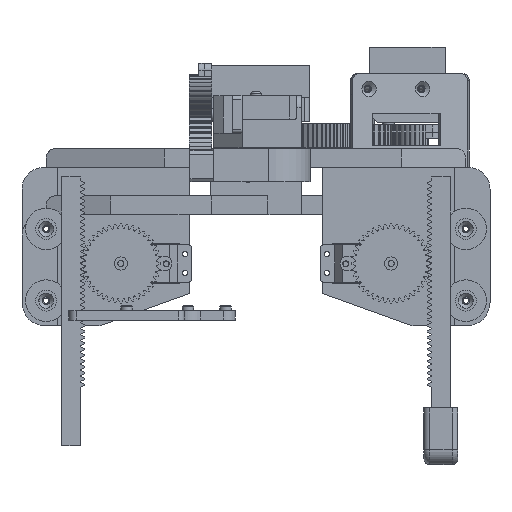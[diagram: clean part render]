
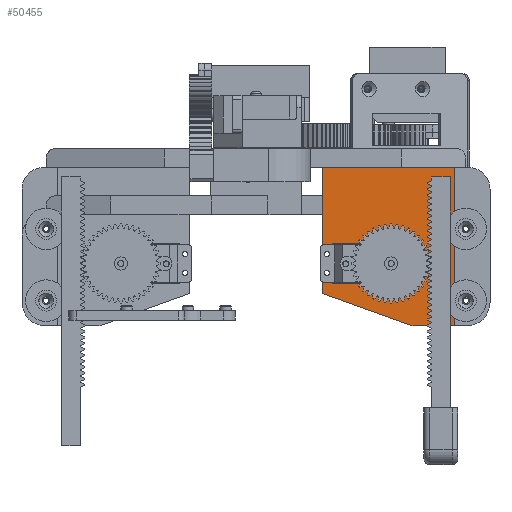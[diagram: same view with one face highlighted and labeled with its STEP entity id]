
A CAD part, front view. The second image highlights one B-rep face of the part: STEP entity #50455.
In plain terms, the highlighted planar face has unit normal (0, -1, 0).
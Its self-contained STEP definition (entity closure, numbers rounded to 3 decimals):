
#2629=FACE_BOUND('',#10169,.T.);
#2630=FACE_BOUND('',#10170,.T.);
#2631=FACE_BOUND('',#10171,.T.);
#2632=FACE_BOUND('',#10172,.T.);
#2633=FACE_BOUND('',#10173,.T.);
#3898=CIRCLE('',#54144,1.4);
#3899=CIRCLE('',#54145,1.4);
#3900=CIRCLE('',#54146,1.4);
#3901=CIRCLE('',#54147,1.4);
#7184=FACE_OUTER_BOUND('',#10168,.T.);
#10168=EDGE_LOOP('',(#40645,#40646,#40647,#40648,#40649));
#10169=EDGE_LOOP('',(#40650,#40651,#40652,#40653,#40654,#40655,#40656,#40657));
#10170=EDGE_LOOP('',(#40658));
#10171=EDGE_LOOP('',(#40659));
#10172=EDGE_LOOP('',(#40660));
#10173=EDGE_LOOP('',(#40661));
#13553=LINE('',#290663,#17619);
#13563=LINE('',#290701,#17629);
#13566=LINE('',#290706,#17632);
#13568=LINE('',#290709,#17634);
#13569=LINE('',#290710,#17635);
#13570=LINE('',#290713,#17636);
#13571=LINE('',#290715,#17637);
#13572=LINE('',#290717,#17638);
#13573=LINE('',#290719,#17639);
#13574=LINE('',#290721,#17640);
#13575=LINE('',#290723,#17641);
#13576=LINE('',#290725,#17642);
#13577=LINE('',#290726,#17643);
#17619=VECTOR('',#62514,10.);
#17629=VECTOR('',#62556,10.);
#17632=VECTOR('',#62561,10.);
#17634=VECTOR('',#62565,10.);
#17635=VECTOR('',#62566,10.);
#17636=VECTOR('',#62567,10.);
#17637=VECTOR('',#62568,10.);
#17638=VECTOR('',#62569,10.);
#17639=VECTOR('',#62570,10.);
#17640=VECTOR('',#62571,10.);
#17641=VECTOR('',#62572,10.);
#17642=VECTOR('',#62573,10.);
#17643=VECTOR('',#62574,10.);
#22422=VERTEX_POINT('',#290660);
#22423=VERTEX_POINT('',#290662);
#22434=VERTEX_POINT('',#290698);
#22435=VERTEX_POINT('',#290700);
#22436=VERTEX_POINT('',#290704);
#22437=VERTEX_POINT('',#290711);
#22438=VERTEX_POINT('',#290712);
#22439=VERTEX_POINT('',#290714);
#22440=VERTEX_POINT('',#290716);
#22441=VERTEX_POINT('',#290718);
#22442=VERTEX_POINT('',#290720);
#22443=VERTEX_POINT('',#290722);
#22444=VERTEX_POINT('',#290724);
#22445=VERTEX_POINT('',#290727);
#22446=VERTEX_POINT('',#290729);
#22447=VERTEX_POINT('',#290731);
#22448=VERTEX_POINT('',#290733);
#28874=EDGE_CURVE('',#22423,#22422,#13553,.T.);
#28891=EDGE_CURVE('',#22435,#22434,#13563,.T.);
#28894=EDGE_CURVE('',#22434,#22436,#13566,.F.);
#28896=EDGE_CURVE('',#22423,#22436,#13568,.T.);
#28897=EDGE_CURVE('',#22422,#22435,#13569,.T.);
#28898=EDGE_CURVE('',#22437,#22438,#13570,.F.);
#28899=EDGE_CURVE('',#22439,#22437,#13571,.F.);
#28900=EDGE_CURVE('',#22440,#22439,#13572,.F.);
#28901=EDGE_CURVE('',#22441,#22440,#13573,.F.);
#28902=EDGE_CURVE('',#22442,#22441,#13574,.F.);
#28903=EDGE_CURVE('',#22443,#22442,#13575,.F.);
#28904=EDGE_CURVE('',#22444,#22443,#13576,.F.);
#28905=EDGE_CURVE('',#22438,#22444,#13577,.F.);
#28906=EDGE_CURVE('',#22445,#22445,#3898,.T.);
#28907=EDGE_CURVE('',#22446,#22446,#3899,.T.);
#28908=EDGE_CURVE('',#22447,#22447,#3900,.T.);
#28909=EDGE_CURVE('',#22448,#22448,#3901,.T.);
#40645=ORIENTED_EDGE('',*,*,#28891,.T.);
#40646=ORIENTED_EDGE('',*,*,#28894,.T.);
#40647=ORIENTED_EDGE('',*,*,#28896,.F.);
#40648=ORIENTED_EDGE('',*,*,#28874,.T.);
#40649=ORIENTED_EDGE('',*,*,#28897,.T.);
#40650=ORIENTED_EDGE('',*,*,#28898,.F.);
#40651=ORIENTED_EDGE('',*,*,#28899,.F.);
#40652=ORIENTED_EDGE('',*,*,#28900,.F.);
#40653=ORIENTED_EDGE('',*,*,#28901,.F.);
#40654=ORIENTED_EDGE('',*,*,#28902,.F.);
#40655=ORIENTED_EDGE('',*,*,#28903,.F.);
#40656=ORIENTED_EDGE('',*,*,#28904,.F.);
#40657=ORIENTED_EDGE('',*,*,#28905,.F.);
#40658=ORIENTED_EDGE('',*,*,#28906,.F.);
#40659=ORIENTED_EDGE('',*,*,#28907,.F.);
#40660=ORIENTED_EDGE('',*,*,#28908,.F.);
#40661=ORIENTED_EDGE('',*,*,#28909,.F.);
#48354=PLANE('',#54143);
#50455=ADVANCED_FACE('',(#7184,#2629,#2630,#2631,#2632,#2633),#48354,.T.);
#54143=AXIS2_PLACEMENT_3D('',#290708,#62563,#62564);
#54144=AXIS2_PLACEMENT_3D('',#290728,#62575,#62576);
#54145=AXIS2_PLACEMENT_3D('',#290730,#62577,#62578);
#54146=AXIS2_PLACEMENT_3D('',#290732,#62579,#62580);
#54147=AXIS2_PLACEMENT_3D('',#290734,#62581,#62582);
#62514=DIRECTION('',(1.,0.,0.));
#62556=DIRECTION('',(-0.942,0.,0.336));
#62561=DIRECTION('',(1.,0.,0.));
#62563=DIRECTION('center_axis',(0.,-1.,0.));
#62564=DIRECTION('ref_axis',(0.,0.,-1.));
#62565=DIRECTION('',(0.,0.,1.));
#62566=DIRECTION('',(0.,0.,1.));
#62567=DIRECTION('',(1.,0.,0.));
#62568=DIRECTION('',(0.,0.,1.));
#62569=DIRECTION('',(1.,0.,0.));
#62570=DIRECTION('',(0.,0.,-1.));
#62571=DIRECTION('',(-1.,0.,0.));
#62572=DIRECTION('',(0.,0.,1.));
#62573=DIRECTION('',(-1.,0.,0.));
#62574=DIRECTION('',(0.,0.,1.));
#62575=DIRECTION('center_axis',(0.,-1.,0.));
#62576=DIRECTION('ref_axis',(1.,0.,0.));
#62577=DIRECTION('center_axis',(0.,-1.,0.));
#62578=DIRECTION('ref_axis',(1.,0.,0.));
#62579=DIRECTION('center_axis',(0.,-1.,0.));
#62580=DIRECTION('ref_axis',(1.,0.,0.));
#62581=DIRECTION('center_axis',(0.,-1.,0.));
#62582=DIRECTION('ref_axis',(1.,0.,0.));
#290660=CARTESIAN_POINT('',(33.6,23.,-80.9));
#290662=CARTESIAN_POINT('',(-36.4,23.,-80.9));
#290663=CARTESIAN_POINT('',(-55.9,23.,-80.9));
#290698=CARTESIAN_POINT('',(-14.6,23.,3.1));
#290700=CARTESIAN_POINT('',(33.6,23.,-14.114));
#290701=CARTESIAN_POINT('',(-14.898,23.,3.206));
#290704=CARTESIAN_POINT('',(-36.4,23.,3.1));
#290706=CARTESIAN_POINT('',(-40.9,23.,3.1));
#290708=CARTESIAN_POINT('Origin',(-47.4,23.,-29.4));
#290709=CARTESIAN_POINT('',(-36.4,23.,-52.65));
#290710=CARTESIAN_POINT('',(33.6,23.,-52.65));
#290711=CARTESIAN_POINT('',(-14.,23.,-27.5));
#290712=CARTESIAN_POINT('',(-19.5,23.,-27.5));
#290713=CARTESIAN_POINT('',(-31.95,23.,-27.5));
#290714=CARTESIAN_POINT('',(-14.,23.,-19.3));
#290715=CARTESIAN_POINT('',(-14.,23.,-34.7));
#290716=CARTESIAN_POINT('',(28.,23.,-19.3));
#290717=CARTESIAN_POINT('',(-30.2,23.,-19.3));
#290718=CARTESIAN_POINT('',(28.,23.,-40.7));
#290719=CARTESIAN_POINT('',(28.,23.,-24.7));
#290720=CARTESIAN_POINT('',(-14.,23.,-40.7));
#290721=CARTESIAN_POINT('',(-10.2,23.,-40.7));
#290722=CARTESIAN_POINT('',(-14.,23.,-32.5));
#290723=CARTESIAN_POINT('',(-14.,23.,-34.7));
#290724=CARTESIAN_POINT('',(-19.5,23.,-32.5));
#290725=CARTESIAN_POINT('',(-30.7,23.,-32.5));
#290726=CARTESIAN_POINT('',(-19.5,23.,-30.95));
#290727=CARTESIAN_POINT('',(-18.4,23.,-25.));
#290728=CARTESIAN_POINT('Origin',(-17.,23.,-25.));
#290729=CARTESIAN_POINT('',(29.6,23.,-35.));
#290730=CARTESIAN_POINT('Origin',(31.,23.,-35.));
#290731=CARTESIAN_POINT('',(-18.4,23.,-35.));
#290732=CARTESIAN_POINT('Origin',(-17.,23.,-35.));
#290733=CARTESIAN_POINT('',(29.6,23.,-25.));
#290734=CARTESIAN_POINT('Origin',(31.,23.,-25.));
